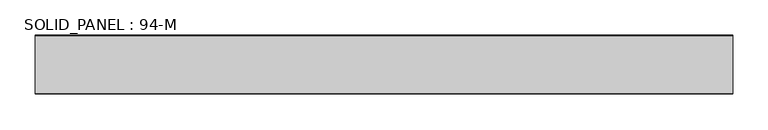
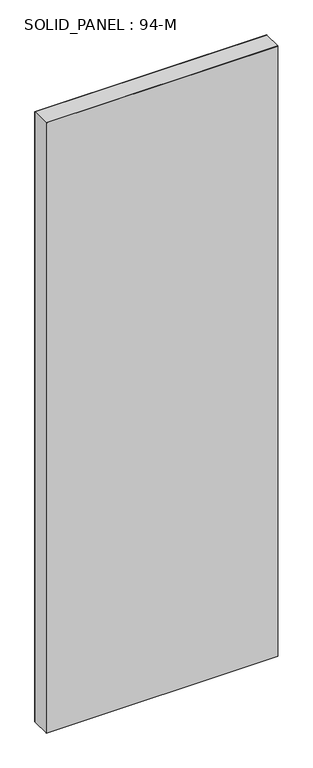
"""IFC4 building model written with IfcOpenShell, lengths in millimetres: plate geometry, SOLID_PANEL : 94-M."""

from ifc_helpers import new_model, si_unit, origin, origin_with_axes, place, context, project, spatial, polyline, outline, extrude, source, transform, mapped, element, save


def solid_panel_94_m_92d8dfe8(model_context):
    return source(origin(), model_context, "Body", "SweptSolid", [
        extrude(outline(polyline([(491.75, -40.5), (-491.75, -40.5), (-491.75, 40.5), (491.75, 40.5), (491.75, -40.5)])), origin_with_axes(), (0.0, 0.0, 1.0), 2739.0),
        extrude(outline(polyline([(491.75, -41.5), (-491.75, -41.5), (-491.75, -40.5), (491.75, -40.5), (491.75, -41.5)])), origin_with_axes(), (0.0, 0.0, 1.0), 2739.0),
        extrude(outline(polyline([(491.75, 40.5), (-491.75, 40.5), (-491.75, 41.5), (491.75, 41.5), (491.75, 40.5)])), origin_with_axes(), (0.0, 0.0, 1.0), 2739.0),
    ])


if __name__ == "__main__":
    model = new_model("IFC4")
    model_context = context("Model", 3, world=origin())
    ifc_project = project(units=[si_unit("LENGTHUNIT", "METRE", prefix="MILLI")], contexts=[model_context])
    site = spatial("IfcSite", under=ifc_project)
    building = spatial("IfcBuilding", under=site)
    placement = place(None, origin())
    solid_panel_94_m_shape = solid_panel_94_m_92d8dfe8(model_context)
    element("IfcPlate", 1, ObjectType="SOLID_PANEL : 94-M", at=placement, inside=building, context=model_context, shape_type="MappedRepresentation", body=[
        mapped(solid_panel_94_m_shape, transform((0.0, 0.0, 0.0), x_axis=(1.0, 0.0, 0.0), y_axis=(0.0, 1.0, 0.0), z_axis=(0.0, 0.0, 1.0))),
    ])
    save(model, "model.ifc")
